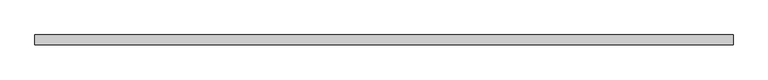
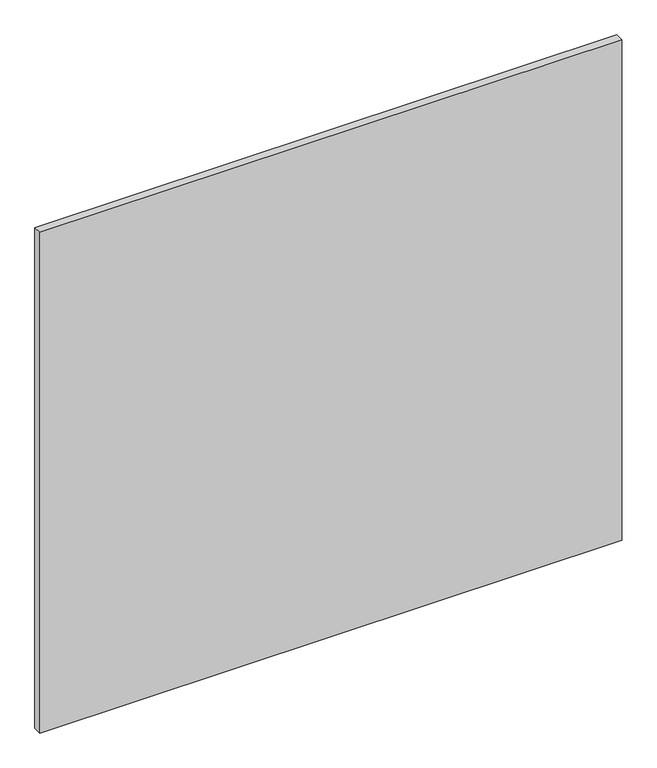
"""IFC4 building model written with IfcOpenShell, lengths in millimetres: plate geometry, 系统嵌板 : 玻璃."""

from ifc_helpers import new_model, si_unit, origin, origin_with_axes, place, context, project, spatial, polyline, outline, extrude, source, transform, mapped, element, save


def plate_94bff21c(model_context):
    return source(origin(), model_context, "Body", "SweptSolid", [
        extrude(outline(polyline([(875.0, -12.5), (-875.0, -12.5), (-875.0, 12.5), (875.0, 12.5), (875.0, -12.5)])), origin_with_axes(), (0.0, 0.0, 1.0), 1591.6666667),
    ])


if __name__ == "__main__":
    model = new_model("IFC4")
    model_context = context("Model", 3, world=origin())
    ifc_project = project(units=[si_unit("LENGTHUNIT", "METRE", prefix="MILLI")], contexts=[model_context])
    site = spatial("IfcSite", under=ifc_project)
    building = spatial("IfcBuilding", under=site)
    placement = place(None, origin())
    plate_shape = plate_94bff21c(model_context)
    element("IfcPlate", 1, ObjectType="系统嵌板 : 玻璃", at=placement, inside=building, context=model_context, shape_type="MappedRepresentation", body=[
        mapped(plate_shape, transform((0.0, 0.0, 0.0), x_axis=(1.0, 0.0, 0.0), y_axis=(0.0, 1.0, 0.0), z_axis=(0.0, 0.0, 1.0))),
    ])
    save(model, "model.ifc")
